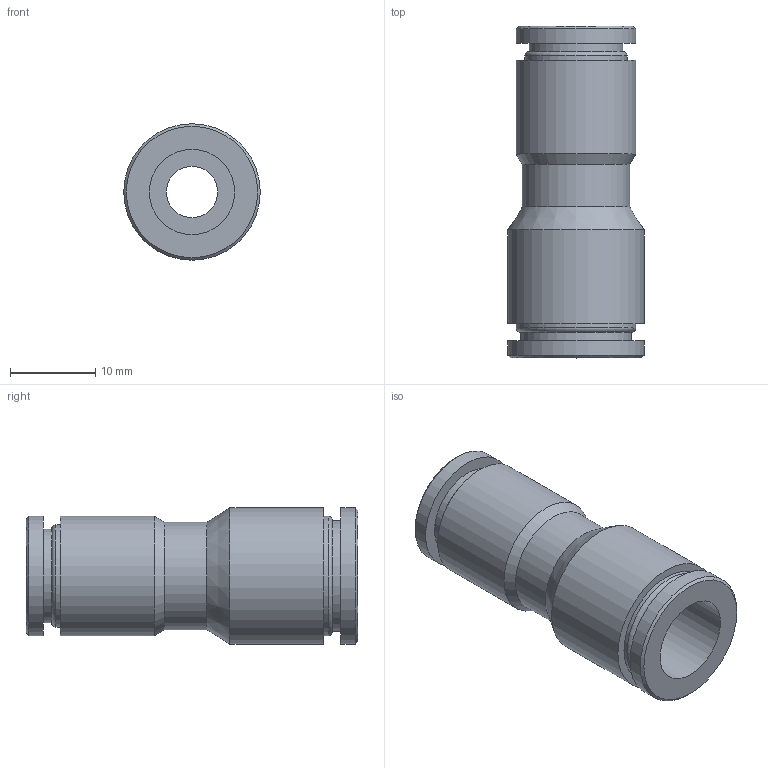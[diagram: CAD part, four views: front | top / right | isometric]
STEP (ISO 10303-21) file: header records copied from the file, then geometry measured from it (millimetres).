
FILE_DESCRIPTION(/* description */ (''),/* implementation_level */ '2;1');
FILE_NAME(/* name */ 'LXH10 1008 00.stp',/* time_stamp */ '2026-04-29T14:18:43+02:00',/* author */ ('freju'),/* organization */ (''),/* preprocessor_version */ 'ST-DEVELOPER v20.1',/* originating_system */ 'Autodesk Inventor 2026',/* authorisation */ '');
FILE_SCHEMA (('AUTOMOTIVE_DESIGN { 1 0 10303 214 3 1 1 }'));
Length unit declared in the file: millimetre
Products named in the file (1): LXH10 1008 00
Bounding box: 16 x 38.9 x 16 mm (x, y, z)
Volume: 3942.1 mm3; surface area: 3367.4 mm2
Topology: 1 solids, 1 shells, 26 faces, 49 edges, 31 vertices
Faces by surface type: cylinder 12, plane 8, cone 4, torus 2
Full cylindrical faces by diameter (mm): 6 x1, 8 x1, 10 x1, 11 x1, 12 x1, 12.6 x1, 13 x1, 14 x3, 16 x2
Entity records: 713 total; most frequent: DIRECTION 136, CARTESIAN_POINT 107, ORIENTED_EDGE 98, AXIS2_PLACEMENT_3D 60, EDGE_CURVE 49, EDGE_LOOP 34, CIRCLE 33, VERTEX_POINT 31
